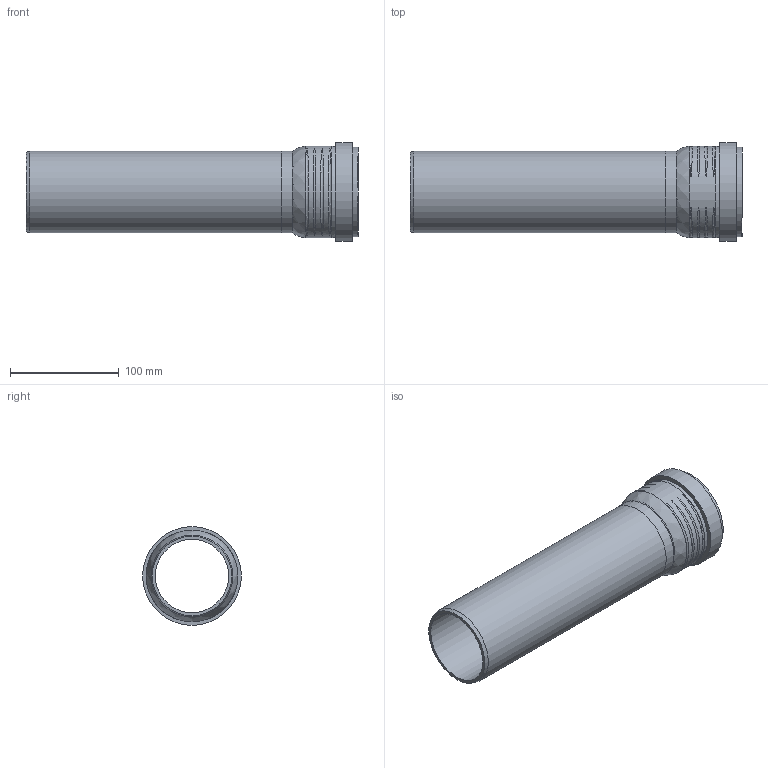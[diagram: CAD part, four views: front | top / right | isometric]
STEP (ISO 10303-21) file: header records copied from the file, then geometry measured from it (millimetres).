
FILE_DESCRIPTION(/* description */ (''),/* implementation_level */ '2;1');
FILE_NAME(/* name */ 'H:\Geberit-Teile\Export\PP_Rohr\stp\393301.stp',/* time_stamp */ '2017-02-13T16:06:02+01:00',/* author */ ('seihe2'),/* organization */ (''),/* preprocessor_version */ 'ST-DEVELOPER v15.2',/* originating_system */ 'Autodesk Inventor 2014',/* authorisation */ '');
FILE_SCHEMA (('AUTOMOTIVE_DESIGN { 1 0 10303 214 3 1 1 }'));
Length unit declared in the file: millimetre
Products named in the file (1): 393301
Bounding box: 305.7 x 91 x 91 mm (x, y, z)
Volume: 277322.6 mm3; surface area: 154277.3 mm2
Topology: 2 solids, 2 shells, 38 faces, 82 edges, 57 vertices
Faces by surface type: torus 16, cylinder 10, plane 8, cone 2, bspline 2
Full cylindrical faces by diameter (mm): 67.6 x2, 75.2 x2, 76 x1, 77.6 x1, 82.8 x1, 84.4 x1, 84.8 x1, 91 x1
Entity records: 2151 total; most frequent: CARTESIAN_POINT 1359, DIRECTION 132, ORIENTED_EDGE 130, EDGE_LOOP 68, AXIS2_PLACEMENT_3D 66, EDGE_CURVE 65, VERTEX_POINT 57, STYLED_ITEM 40
